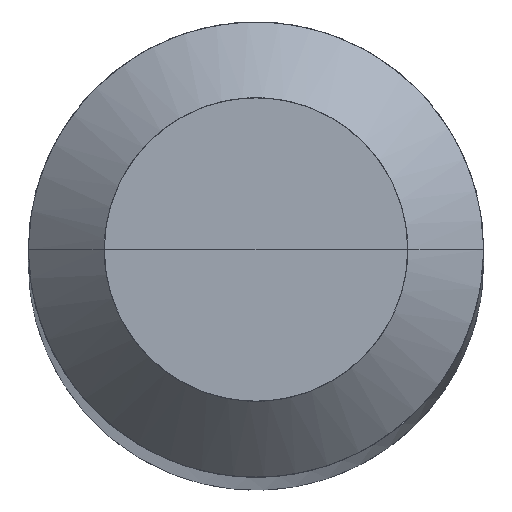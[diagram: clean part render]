
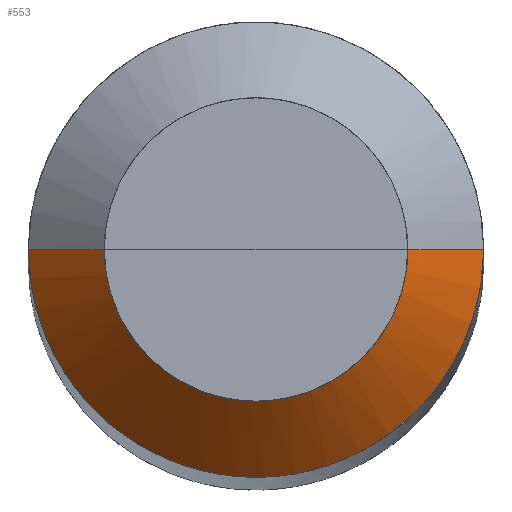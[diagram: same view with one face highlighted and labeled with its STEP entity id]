
A CAD part, top view. The second image highlights one B-rep face of the part: STEP entity #553.
In plain terms, the highlighted free-form (B-spline) face has degree [1, 2] with [2, 5] control points.
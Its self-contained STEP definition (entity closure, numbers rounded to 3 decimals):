
#294=CARTESIAN_POINT('',(1.5,0.0,47.85));
#298=CARTESIAN_POINT('',(-1.5,0.0,47.85));
#299=CARTESIAN_POINT('',(1.0,0.0,48.35));
#303=CARTESIAN_POINT('',(-1.0,0.0,48.35));
#305=CARTESIAN_POINT('',(-1.5,-1.5,47.85));
#306=CARTESIAN_POINT('',(0.0,-1.5,47.85));
#307=CARTESIAN_POINT('',(1.5,-1.5,47.85));
#308=CARTESIAN_POINT('',(-1.0,-1.0,48.35));
#309=CARTESIAN_POINT('',(0.0,-1.0,48.35));
#310=CARTESIAN_POINT('',(1.0,-1.0,48.35));
#534=(
BOUNDED_SURFACE()
B_SPLINE_SURFACE(1,2,(
(#298,#305,#306,#307,#294),
(#303,#308,#309,#310,#299)
), .UNSPECIFIED.,.F.,.F.,.F.)
B_SPLINE_SURFACE_WITH_KNOTS((2,2),(3,2,3),(
0.0,1.0),(
0.0,0.5,1.0), .UNSPECIFIED.)
GEOMETRIC_REPRESENTATION_ITEM()
RATIONAL_B_SPLINE_SURFACE(((1.0,0.707,1.0,0.707,1.0),
(1.0,0.707,1.0,0.707,1.0)
))
REPRESENTATION_ITEM('')
SURFACE()
);
#535=(
BOUNDED_CURVE()
B_SPLINE_CURVE(2,(#294,#307,#306,#305,#298),.UNSPECIFIED.,.F.,.F.)
B_SPLINE_CURVE_WITH_KNOTS((3,2,3),
(0.0,0.5,1.0),.UNSPECIFIED.)
CURVE()
GEOMETRIC_REPRESENTATION_ITEM()
RATIONAL_B_SPLINE_CURVE((1.0,0.707,1.0,0.707,1.0))
REPRESENTATION_ITEM('')
);
#536=(
BOUNDED_CURVE()
B_SPLINE_CURVE(1,(#298,#303),.UNSPECIFIED.,.F.,.F.)
B_SPLINE_CURVE_WITH_KNOTS((2,2),
(0.0,1.0),.UNSPECIFIED.)
CURVE()
GEOMETRIC_REPRESENTATION_ITEM()
RATIONAL_B_SPLINE_CURVE((1.0,1.0))
REPRESENTATION_ITEM('')
);
#537=(
BOUNDED_CURVE()
B_SPLINE_CURVE(2,(#303,#308,#309,#310,#299),.UNSPECIFIED.,.F.,.F.)
B_SPLINE_CURVE_WITH_KNOTS((3,2,3),
(0.0,0.5,1.0),.UNSPECIFIED.)
CURVE()
GEOMETRIC_REPRESENTATION_ITEM()
RATIONAL_B_SPLINE_CURVE((1.0,0.707,1.0,0.707,1.0))
REPRESENTATION_ITEM('')
);
#538=(
BOUNDED_CURVE()
B_SPLINE_CURVE(1,(#299,#294),.UNSPECIFIED.,.F.,.F.)
B_SPLINE_CURVE_WITH_KNOTS((2,2),
(0.0,1.0),.UNSPECIFIED.)
CURVE()
GEOMETRIC_REPRESENTATION_ITEM()
RATIONAL_B_SPLINE_CURVE((1.0,1.0))
REPRESENTATION_ITEM('')
);
#539=VERTEX_POINT('',#294);
#540=VERTEX_POINT('',#298);
#541=VERTEX_POINT('',#299);
#542=VERTEX_POINT('',#303);
#543=EDGE_CURVE('',#539,#540,#535,.T.);
#544=EDGE_CURVE('',#540,#542,#536,.T.);
#545=EDGE_CURVE('',#542,#541,#537,.T.);
#546=EDGE_CURVE('',#541,#539,#538,.T.);
#547=ORIENTED_EDGE('',*,*,#543,.T.);
#548=ORIENTED_EDGE('',*,*,#544,.T.);
#549=ORIENTED_EDGE('',*,*,#545,.T.);
#550=ORIENTED_EDGE('',*,*,#546,.T.);
#551=EDGE_LOOP('',(#547,#548,#549,#550));
#552=FACE_OUTER_BOUND('',#551,.T.);
#553=ADVANCED_FACE('',(#552),#534,.T.);
